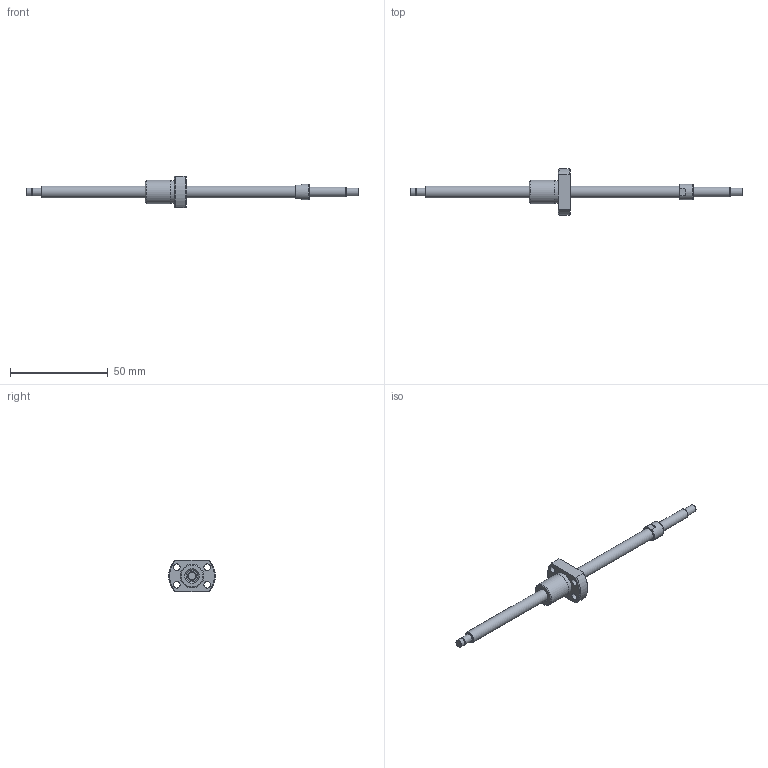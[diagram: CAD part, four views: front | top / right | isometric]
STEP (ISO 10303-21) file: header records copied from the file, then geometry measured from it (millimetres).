
FILE_DESCRIPTION(/* description */ ('STEP AP214'),/* implementation_level */ '2;1');
FILE_NAME(/* name */ 'NSGF0602Z-127R170C3-0-T-S-T-B-(53-S)',/* time_stamp */ '2026-08-24T20:05:18+02:00',/* author */ ('License CC BY-ND 4.0'),/* organization */ ('CADENAS'),/* preprocessor_version */ 'ST-DEVELOPER v20',/* originating_system */ 'PARTsolutions',/* authorisation */ ' ');
FILE_SCHEMA (('AUTOMOTIVE_DESIGN {1 0 10303 214 3 1 1}'));
Length unit declared in the file: millimetre
Products named in the file (3): NSGF0602Z-127R170C3-0-T-S-T-B-(53-S); NSG0602Z-127R170_(T-S_T-B_2)_2; NSGF0602Z-1
Assembly tree (2 placements, depth 2):
  NSGF0602Z-127R170C3-0-T-S-T-B-(53-S)
    NSG0602Z-127R170_(T-S_T-B_2)_2
    NSGF0602Z-1
Bounding box: 170 x 23.92 x 16 mm (x, y, z)
Volume: 7339.1 mm3; surface area: 5430.1 mm2
Topology: 2 solids, 2 shells, 47 faces, 98 edges, 64 vertices
Faces by surface type: plane 19, cylinder 17, cone 9, torus 2
Full cylindrical faces by diameter (mm): 3.4 x4, 3.7 x1, 4 x3, 5 x1, 6 x2, 8 x1, 10 x1, 11.7 x1, 12 x1
Entity records: 1225 total; most frequent: DIRECTION 212, CARTESIAN_POINT 206, ORIENTED_EDGE 144, AXIS2_PLACEMENT_3D 98, EDGE_LOOP 88, FACE_BOUND 88, EDGE_CURVE 72, VERTEX_POINT 60
